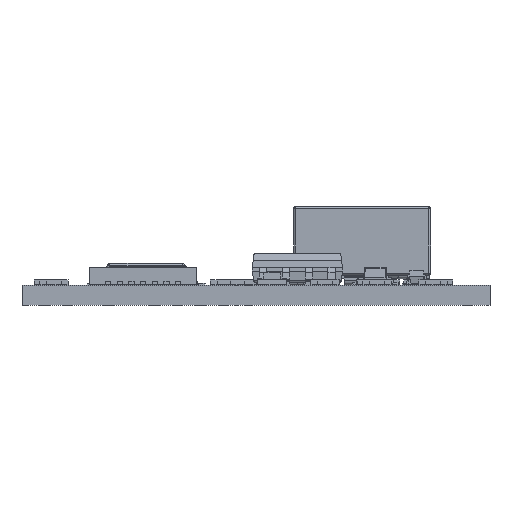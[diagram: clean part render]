
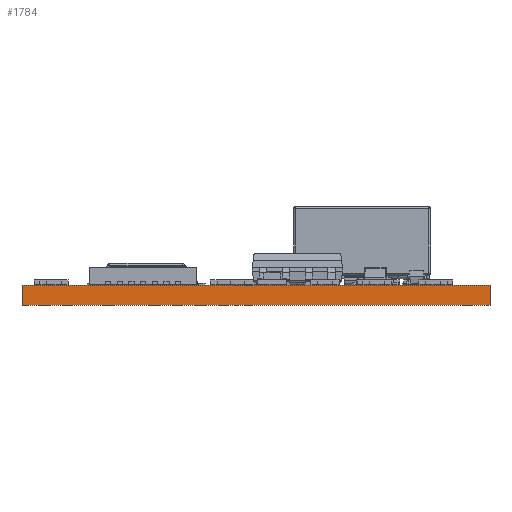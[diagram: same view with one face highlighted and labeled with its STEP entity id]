
A CAD part, front view. The second image highlights one B-rep face of the part: STEP entity #1784.
In plain terms, the highlighted planar face has unit normal (0, -1, 0).
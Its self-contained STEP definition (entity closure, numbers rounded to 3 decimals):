
#275 = PLANE('',#276);
#276 = AXIS2_PLACEMENT_3D('',#277,#278,#279);
#277 = CARTESIAN_POINT('',(26.,28.54,1.124));
#278 = DIRECTION('',(0.,0.,-1.));
#279 = DIRECTION('',(-1.,0.,0.));
#329 = PLANE('',#330);
#330 = AXIS2_PLACEMENT_3D('',#331,#332,#333);
#331 = CARTESIAN_POINT('',(26.,28.54,0.));
#332 = DIRECTION('',(0.,0.,-1.));
#333 = DIRECTION('',(-1.,0.,0.));
#1676 = PLANE('',#1677);
#1677 = AXIS2_PLACEMENT_3D('',#1678,#1679,#1680);
#1678 = CARTESIAN_POINT('',(0.,0.624,0.));
#1679 = DIRECTION('',(1.,0.,0.));
#1680 = DIRECTION('',(0.,-1.,0.));
#1714 = VERTEX_POINT('',#1715);
#1715 = CARTESIAN_POINT('',(0.,0.,1.124));
#1736 = EDGE_CURVE('',#1737,#1714,#1739,.T.);
#1737 = VERTEX_POINT('',#1738);
#1738 = CARTESIAN_POINT('',(0.,0.,0.));
#1739 = SURFACE_CURVE('',#1740,(#1744,#1751),.PCURVE_S1.);
#1740 = LINE('',#1741,#1742);
#1741 = CARTESIAN_POINT('',(0.,0.,0.));
#1742 = VECTOR('',#1743,1.);
#1743 = DIRECTION('',(0.,0.,1.));
#1744 = PCURVE('',#1676,#1745);
#1745 = DEFINITIONAL_REPRESENTATION('',(#1746),#1750);
#1746 = LINE('',#1747,#1748);
#1747 = CARTESIAN_POINT('',(0.624,0.));
#1748 = VECTOR('',#1749,1.);
#1749 = DIRECTION('',(0.,-1.));
#1750 = ( GEOMETRIC_REPRESENTATION_CONTEXT(2) 
PARAMETRIC_REPRESENTATION_CONTEXT() REPRESENTATION_CONTEXT('2D SPACE',''
  ) );
#1751 = PCURVE('',#1752,#1757);
#1752 = PLANE('',#1753);
#1753 = AXIS2_PLACEMENT_3D('',#1754,#1755,#1756);
#1754 = CARTESIAN_POINT('',(0.,0.,0.));
#1755 = DIRECTION('',(0.,1.,0.));
#1756 = DIRECTION('',(1.,0.,0.));
#1757 = DEFINITIONAL_REPRESENTATION('',(#1758),#1762);
#1758 = LINE('',#1759,#1760);
#1759 = CARTESIAN_POINT('',(0.,0.));
#1760 = VECTOR('',#1761,1.);
#1761 = DIRECTION('',(0.,-1.));
#1762 = ( GEOMETRIC_REPRESENTATION_CONTEXT(2) 
PARAMETRIC_REPRESENTATION_CONTEXT() REPRESENTATION_CONTEXT('2D SPACE',''
  ) );
#1784 = ADVANCED_FACE('',(#1785),#1752,.F.);
#1785 = FACE_BOUND('',#1786,.F.);
#1786 = EDGE_LOOP('',(#1787,#1788,#1811,#1839));
#1787 = ORIENTED_EDGE('',*,*,#1736,.T.);
#1788 = ORIENTED_EDGE('',*,*,#1789,.T.);
#1789 = EDGE_CURVE('',#1714,#1790,#1792,.T.);
#1790 = VERTEX_POINT('',#1791);
#1791 = CARTESIAN_POINT('',(26.,0.,1.124));
#1792 = SURFACE_CURVE('',#1793,(#1797,#1804),.PCURVE_S1.);
#1793 = LINE('',#1794,#1795);
#1794 = CARTESIAN_POINT('',(0.,0.,1.124));
#1795 = VECTOR('',#1796,1.);
#1796 = DIRECTION('',(1.,0.,0.));
#1797 = PCURVE('',#1752,#1798);
#1798 = DEFINITIONAL_REPRESENTATION('',(#1799),#1803);
#1799 = LINE('',#1800,#1801);
#1800 = CARTESIAN_POINT('',(0.,-1.124));
#1801 = VECTOR('',#1802,1.);
#1802 = DIRECTION('',(1.,0.));
#1803 = ( GEOMETRIC_REPRESENTATION_CONTEXT(2) 
PARAMETRIC_REPRESENTATION_CONTEXT() REPRESENTATION_CONTEXT('2D SPACE',''
  ) );
#1804 = PCURVE('',#275,#1805);
#1805 = DEFINITIONAL_REPRESENTATION('',(#1806),#1810);
#1806 = LINE('',#1807,#1808);
#1807 = CARTESIAN_POINT('',(26.,-28.54));
#1808 = VECTOR('',#1809,1.);
#1809 = DIRECTION('',(-1.,0.));
#1810 = ( GEOMETRIC_REPRESENTATION_CONTEXT(2) 
PARAMETRIC_REPRESENTATION_CONTEXT() REPRESENTATION_CONTEXT('2D SPACE',''
  ) );
#1811 = ORIENTED_EDGE('',*,*,#1812,.F.);
#1812 = EDGE_CURVE('',#1813,#1790,#1815,.T.);
#1813 = VERTEX_POINT('',#1814);
#1814 = CARTESIAN_POINT('',(26.,0.,0.));
#1815 = SURFACE_CURVE('',#1816,(#1820,#1827),.PCURVE_S1.);
#1816 = LINE('',#1817,#1818);
#1817 = CARTESIAN_POINT('',(26.,0.,0.));
#1818 = VECTOR('',#1819,1.);
#1819 = DIRECTION('',(0.,0.,1.));
#1820 = PCURVE('',#1752,#1821);
#1821 = DEFINITIONAL_REPRESENTATION('',(#1822),#1826);
#1822 = LINE('',#1823,#1824);
#1823 = CARTESIAN_POINT('',(26.,0.));
#1824 = VECTOR('',#1825,1.);
#1825 = DIRECTION('',(0.,-1.));
#1826 = ( GEOMETRIC_REPRESENTATION_CONTEXT(2) 
PARAMETRIC_REPRESENTATION_CONTEXT() REPRESENTATION_CONTEXT('2D SPACE',''
  ) );
#1827 = PCURVE('',#1828,#1833);
#1828 = PLANE('',#1829);
#1829 = AXIS2_PLACEMENT_3D('',#1830,#1831,#1832);
#1830 = CARTESIAN_POINT('',(26.,0.,0.));
#1831 = DIRECTION('',(-1.,0.,0.));
#1832 = DIRECTION('',(0.,1.,0.));
#1833 = DEFINITIONAL_REPRESENTATION('',(#1834),#1838);
#1834 = LINE('',#1835,#1836);
#1835 = CARTESIAN_POINT('',(0.,0.));
#1836 = VECTOR('',#1837,1.);
#1837 = DIRECTION('',(0.,-1.));
#1838 = ( GEOMETRIC_REPRESENTATION_CONTEXT(2) 
PARAMETRIC_REPRESENTATION_CONTEXT() REPRESENTATION_CONTEXT('2D SPACE',''
  ) );
#1839 = ORIENTED_EDGE('',*,*,#1840,.F.);
#1840 = EDGE_CURVE('',#1737,#1813,#1841,.T.);
#1841 = SURFACE_CURVE('',#1842,(#1846,#1853),.PCURVE_S1.);
#1842 = LINE('',#1843,#1844);
#1843 = CARTESIAN_POINT('',(0.,0.,0.));
#1844 = VECTOR('',#1845,1.);
#1845 = DIRECTION('',(1.,0.,0.));
#1846 = PCURVE('',#1752,#1847);
#1847 = DEFINITIONAL_REPRESENTATION('',(#1848),#1852);
#1848 = LINE('',#1849,#1850);
#1849 = CARTESIAN_POINT('',(0.,0.));
#1850 = VECTOR('',#1851,1.);
#1851 = DIRECTION('',(1.,0.));
#1852 = ( GEOMETRIC_REPRESENTATION_CONTEXT(2) 
PARAMETRIC_REPRESENTATION_CONTEXT() REPRESENTATION_CONTEXT('2D SPACE',''
  ) );
#1853 = PCURVE('',#329,#1854);
#1854 = DEFINITIONAL_REPRESENTATION('',(#1855),#1859);
#1855 = LINE('',#1856,#1857);
#1856 = CARTESIAN_POINT('',(26.,-28.54));
#1857 = VECTOR('',#1858,1.);
#1858 = DIRECTION('',(-1.,0.));
#1859 = ( GEOMETRIC_REPRESENTATION_CONTEXT(2) 
PARAMETRIC_REPRESENTATION_CONTEXT() REPRESENTATION_CONTEXT('2D SPACE',''
  ) );
